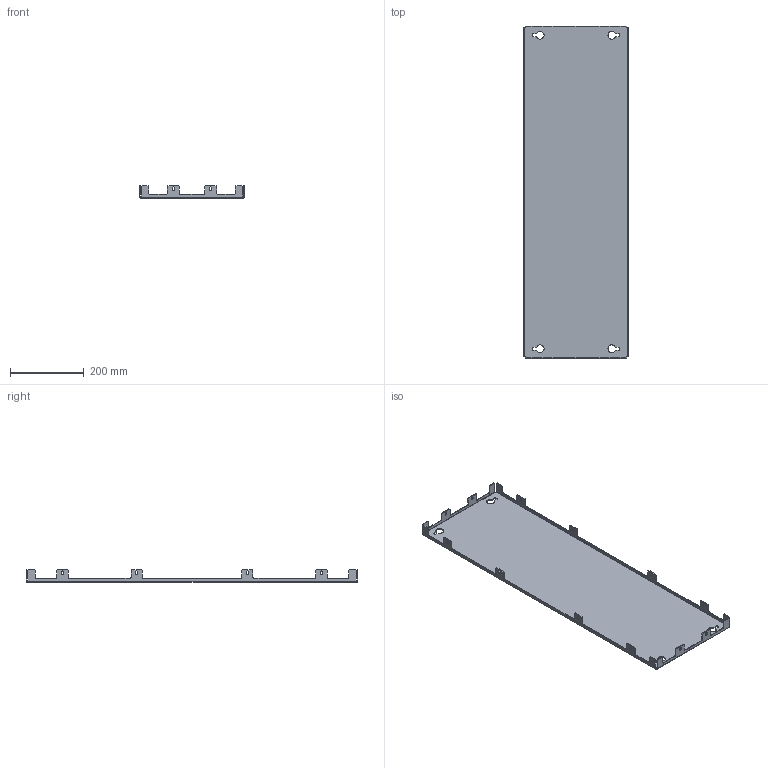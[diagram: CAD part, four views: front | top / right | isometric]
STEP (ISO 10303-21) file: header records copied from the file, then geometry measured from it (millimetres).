
FILE_DESCRIPTION (( 'STEP AP203' ), '1' );
FILE_NAME ('R5LPS1004.STEP', '2021-12-17T12:17:44', ( '' ), ( '' ), 'SwSTEP 2.0', 'SolidWorks 2020', '' );
FILE_SCHEMA (( 'CONFIG_CONTROL_DESIGN' ));
Length unit declared in the file: millimetre
Products named in the file (1): R5LPS1004
Bounding box: 284 x 898 x 32.5 mm (x, y, z)
Volume: 563086.7 mm3; surface area: 570928.5 mm2
Topology: 1 solids, 1 shells, 276 faces, 790 edges, 516 vertices
Faces by surface type: plane 178, cylinder 98
Entity records: 9115 total; most frequent: CARTESIAN_POINT 1583, ORIENTED_EDGE 1580, DIRECTION 1540, EDGE_CURVE 790, VECTOR 594, LINE 594, VERTEX_POINT 516, AXIS2_PLACEMENT_3D 473
